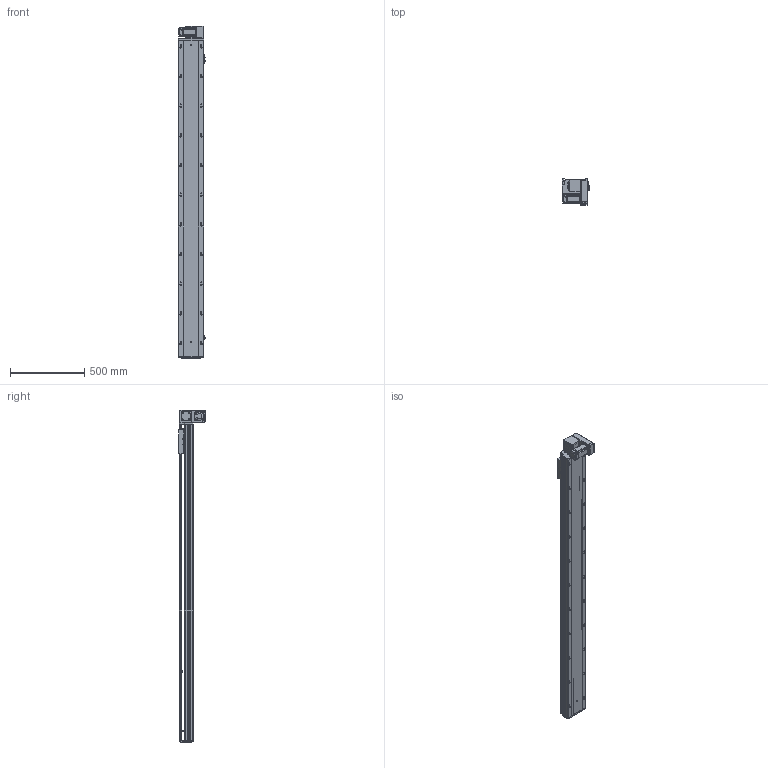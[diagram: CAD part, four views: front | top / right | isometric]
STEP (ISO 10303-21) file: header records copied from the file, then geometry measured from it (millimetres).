
FILE_DESCRIPTION (( 'STEP AP203' ), '1' );
FILE_NAME ('RY170-T-300-DR-P400W.SLDASM_1850.step', '2021-03-01T08:24:41', ( '盈信电脑' ), ( '东莞市道滘镇水果街19号' ), 'SwSTEP 2.0', 'SolidWorks 2012', '' );
FILE_SCHEMA (( 'CONFIG_CONTROL_DESIGN' ));
Length unit declared in the file: millimetre
Products named in the file (19): 15; RY170-T-300-DR-P400W.SLDASM_1850; RY170-T-呴雄粣揤踡啣; RY170-T肮祭謫裔啣; 滅袉蝶18-10; RY170-T蹟翐M4; RY120-T主同步轮轴承压盖; RY170-T肮祭湍揤踡輸2; RY170-T肮祭湍揤踡輸1; RY170翋肮祭謫釱; RY170同步轮电机安装板(400W); RY170肮祭謫ヶ裔啣; RY170肮祭謫萇儂欶; 覜茼ん672; RY170外置感应片(200共用）; RY170-T-300肮祭謫倰第裔啣-DR_1850; RY170綴裔啣; RY170肮祭湍臏賑輸; RY170-T-300肮祭謫倰第菁釱-DR_1850
Assembly tree (23 placements, depth 2):
  RY170-T-300-DR-P400W.SLDASM_1850
    RY170-T-300肮祭謫倰第菁釱-DR_1850
    RY170肮祭湍臏賑輸
    RY170-T-300肮祭謫倰第裔啣-DR_1850
    RY170綴裔啣
    覜茼ん672  x3
    RY170外置感应片(200共用）
    RY170肮祭謫ヶ裔啣
    RY170翋肮祭謫釱
    RY170同步轮电机安装板(400W)
    RY170肮祭謫萇儂欶
    RY170-T肮祭湍揤踡輸1  x2
    RY170-T肮祭湍揤踡輸2  x2
    RY120-T主同步轮轴承压盖
    RY170-T肮祭謫裔啣
    RY170-T蹟翐M4
    滅袉蝶18-10  x2
    RY170-T-呴雄粣揤踡啣
    15
Bounding box: 183.7 x 178 x 2238 mm (x, y, z)
Volume: 10462021.6 mm3; surface area: 3599301.2 mm2
Topology: 23 solids, 23 shells, 2978 faces, 8330 edges, 5315 vertices
Faces by surface type: cylinder 1380, plane 1272, cone 296, bspline 30
Entity records: 90365 total; most frequent: CARTESIAN_POINT 20749, ORIENTED_EDGE 14248, DIRECTION 13924, EDGE_CURVE 7124, AXIS2_PLACEMENT_3D 4940, VERTEX_POINT 4671, LINE 4044, VECTOR 4044
